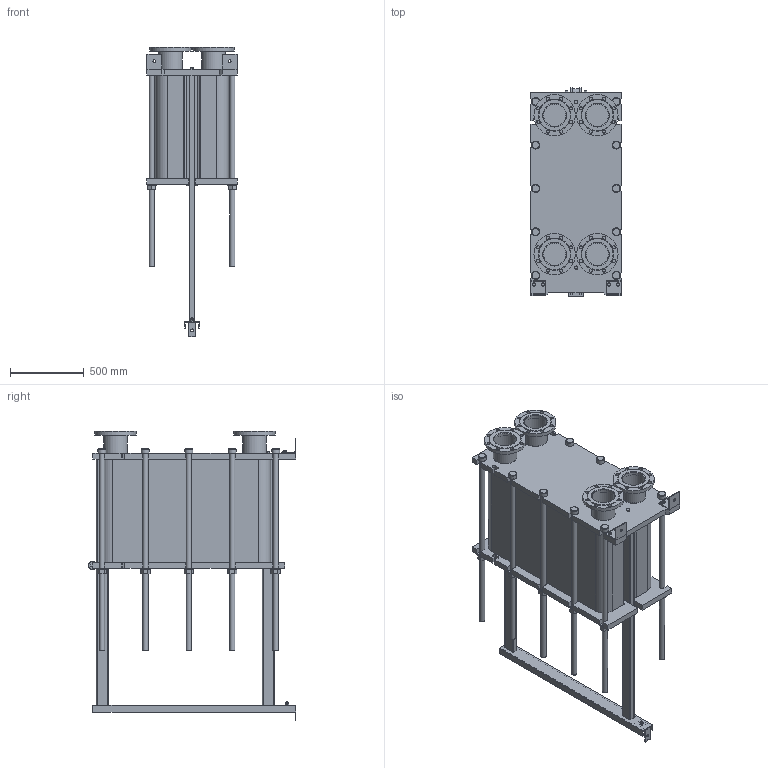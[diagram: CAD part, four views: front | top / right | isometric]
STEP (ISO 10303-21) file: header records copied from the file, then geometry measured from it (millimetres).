
FILE_DESCRIPTION(/* description */ (''),/* implementation_level */ '2;1');
FILE_NAME(/* name */ 'C:\Users\zhuro\Desktop\ENCO\TO\ЭН-041\ЭН-0,5-041-203-1.stp',/* time_stamp */ '2022-06-06T11:06:27+03:00',/* author */ ('zhuro'),/* organization */ (''),/* preprocessor_version */ 'ST-DEVELOPER v18.1',/* originating_system */ 'Autodesk Inventor 2022',/* authorisation */ '');
FILE_SCHEMA (('AUTOMOTIVE_DESIGN { 1 0 10303 214 3 1 1 }'));
Length unit declared in the file: millimetre
Products named in the file (1): ЭН-0,5-041-203-1
Bounding box: 610 x 1406.5 x 1962.5 mm (x, y, z)
Volume: 481614173.6 mm3; surface area: 11295576.7 mm2
Topology: 52 solids, 52 shells, 711 faces, 1696 edges, 1094 vertices
Faces by surface type: plane 487, cylinder 177, cone 41, torus 6
Full cylindrical faces by diameter (mm): 8 x4, 10 x2, 16 x8, 18 x3, 22 x32, 36 x24, 50 x1, 54 x10, 60 x12, 151 x4, 161 x8, 280 x4
Entity records: 22667 total; most frequent: CARTESIAN_POINT 5230, DIRECTION 3644, ORIENTED_EDGE 3392, EDGE_CURVE 1696, AXIS2_PLACEMENT_3D 1272, LINE 1100, VECTOR 1100, VERTEX_POINT 1094
